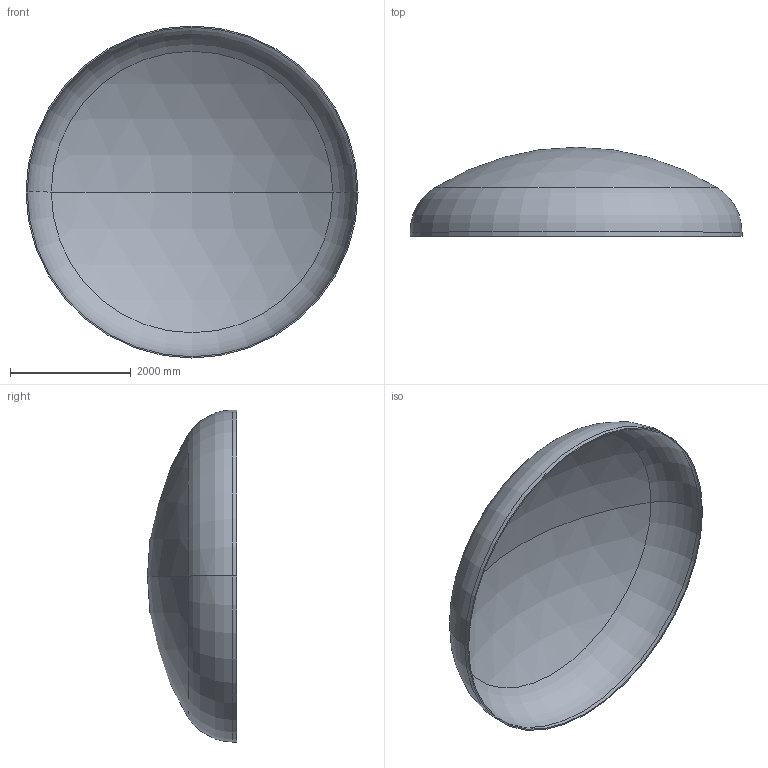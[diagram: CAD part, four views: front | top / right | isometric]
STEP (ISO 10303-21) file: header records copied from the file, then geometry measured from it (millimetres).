
FILE_DESCRIPTION (( 'STEP AP203' ), '1' );
FILE_NAME ('DIN 28013 Korbbogenform_-_Boden DIN 28013 - 5500 x 70 - I - s=21.step', '2016-07-04T10:33:43', ( '' ), ( '' ), 'SwSTEP 2.0', 'SolidWorks 2013', '' );
FILE_SCHEMA (( 'CONFIG_CONTROL_DESIGN' ));
Length unit declared in the file: millimetre
Products named in the file (1): DIN 28013 Korbbogenform_-_Boden DIN 28013 - 5500 x 70 - I - s=21
Bounding box: 5500 x 1476.27 x 5500 mm (x, y, z)
Volume: 712548080.2 mm3; surface area: 68224086.8 mm2
Topology: 1 solids, 1 shells, 13 faces, 24 edges, 14 vertices
Faces by surface type: torus 4, cylinder 4, sphere 4, plane 1
Entity records: 407 total; most frequent: DIRECTION 72, CARTESIAN_POINT 52, ORIENTED_EDGE 48, AXIS2_PLACEMENT_3D 34, EDGE_CURVE 24, CIRCLE 20, VERTEX_POINT 14, EDGE_LOOP 14
